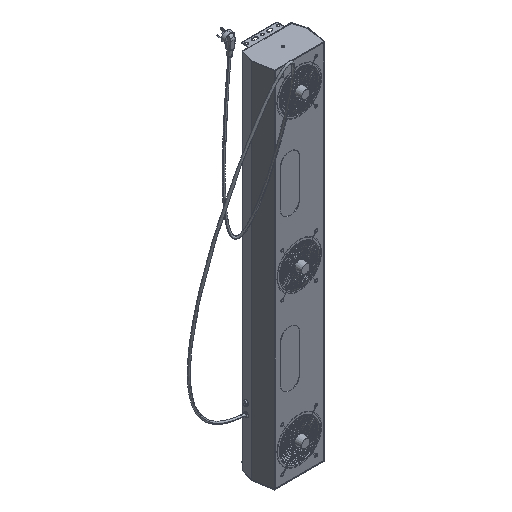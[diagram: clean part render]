
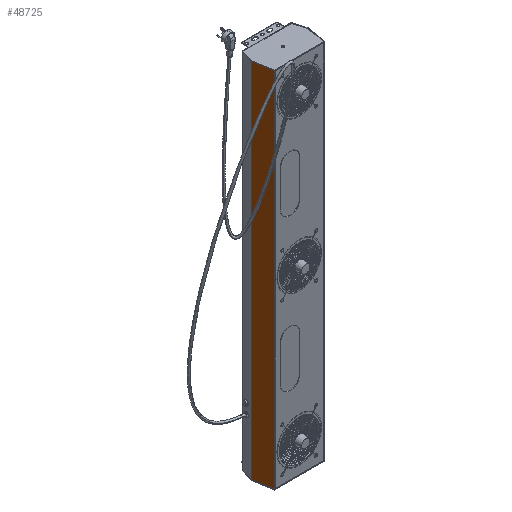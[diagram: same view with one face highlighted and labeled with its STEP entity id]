
A CAD part, isometric view. The second image highlights one B-rep face of the part: STEP entity #48725.
In plain terms, the highlighted planar face has unit normal (-0.986, -0.169, 0).
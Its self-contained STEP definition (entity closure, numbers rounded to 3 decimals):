
#75 = VECTOR ( 'NONE', #13196, 1000. ) ;
#1277 = LINE ( 'NONE', #44168, #9908 ) ;
#1343 = LINE ( 'NONE', #48380, #75 ) ;
#9908 = VECTOR ( 'NONE', #17002, 1000. ) ;
#11916 = DIRECTION ( 'NONE',  ( 0.986, 0.169, 0. ) ) ;
#12938 = ORIENTED_EDGE ( 'NONE', *, *, #38488, .T. ) ;
#13196 = DIRECTION ( 'NONE',  ( -0.169, 0.986, 0. ) ) ;
#14651 = CARTESIAN_POINT ( 'NONE',  ( -76., 0., -0.1 ) ) ;
#15520 = DIRECTION ( 'NONE',  ( -0.169, 0.986, 0. ) ) ;
#17002 = DIRECTION ( 'NONE',  ( 0., 0., 1. ) ) ;
#17323 = ORIENTED_EDGE ( 'NONE', *, *, #33140, .F. ) ;
#18947 = VECTOR ( 'NONE', #19896, 1000. ) ;
#19896 = DIRECTION ( 'NONE',  ( -0.169, 0.986, 0. ) ) ;
#20738 = EDGE_CURVE ( 'NONE', #28613, #21623, #22773, .T. ) ;
#21227 = CARTESIAN_POINT ( 'NONE',  ( -86.325, 60.166, -0.1 ) ) ;
#21623 = VERTEX_POINT ( 'NONE', #14651 ) ;
#22773 = LINE ( 'NONE', #42216, #26970 ) ;
#23018 = PLANE ( 'NONE',  #38032 ) ;
#24136 = VERTEX_POINT ( 'NONE', #21227 ) ;
#26970 = VECTOR ( 'NONE', #49719, 1000. ) ;
#28613 = VERTEX_POINT ( 'NONE', #29669 ) ;
#29669 = CARTESIAN_POINT ( 'NONE',  ( -76., 0., -1098.8 ) ) ;
#31055 = FACE_OUTER_BOUND ( 'NONE', #35129, .T. ) ;
#32608 = CARTESIAN_POINT ( 'NONE',  ( -76., 0., -0.1 ) ) ;
#33140 = EDGE_CURVE ( 'NONE', #40421, #24136, #1277, .T. ) ;
#33790 = ORIENTED_EDGE ( 'NONE', *, *, #20738, .T. ) ;
#35129 = EDGE_LOOP ( 'NONE', ( #12938, #17323, #45554, #33790 ) ) ;
#37945 = CARTESIAN_POINT ( 'NONE',  ( -86.325, 60.166, -1098.8 ) ) ;
#38032 = AXIS2_PLACEMENT_3D ( 'NONE', #46831, #11916, #15520 ) ;
#38488 = EDGE_CURVE ( 'NONE', #21623, #24136, #47857, .T. ) ;
#40421 = VERTEX_POINT ( 'NONE', #37945 ) ;
#42216 = CARTESIAN_POINT ( 'NONE',  ( -76., 0., -1098.8 ) ) ;
#44168 = CARTESIAN_POINT ( 'NONE',  ( -86.325, 60.166, -1098.8 ) ) ;
#45554 = ORIENTED_EDGE ( 'NONE', *, *, #48789, .F. ) ;
#46831 = CARTESIAN_POINT ( 'NONE',  ( -76., 0., -1098.8 ) ) ;
#47857 = LINE ( 'NONE', #32608, #18947 ) ;
#48380 = CARTESIAN_POINT ( 'NONE',  ( -76., 0., -1098.8 ) ) ;
#48725 = ADVANCED_FACE ( 'NONE', ( #31055 ), #23018, .F. ) ;
#48789 = EDGE_CURVE ( 'NONE', #28613, #40421, #1343, .T. ) ;
#49719 = DIRECTION ( 'NONE',  ( 0., 0., 1. ) ) ;
